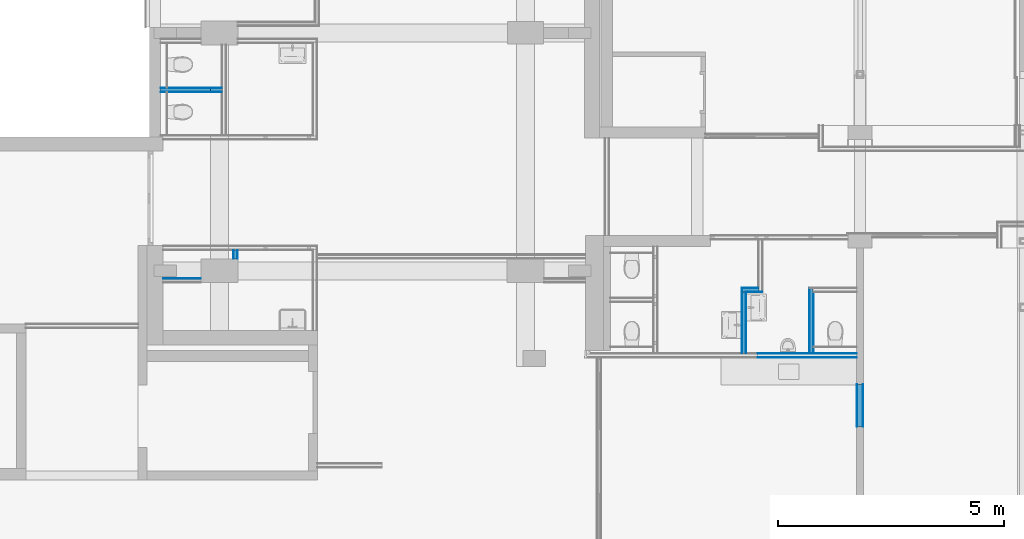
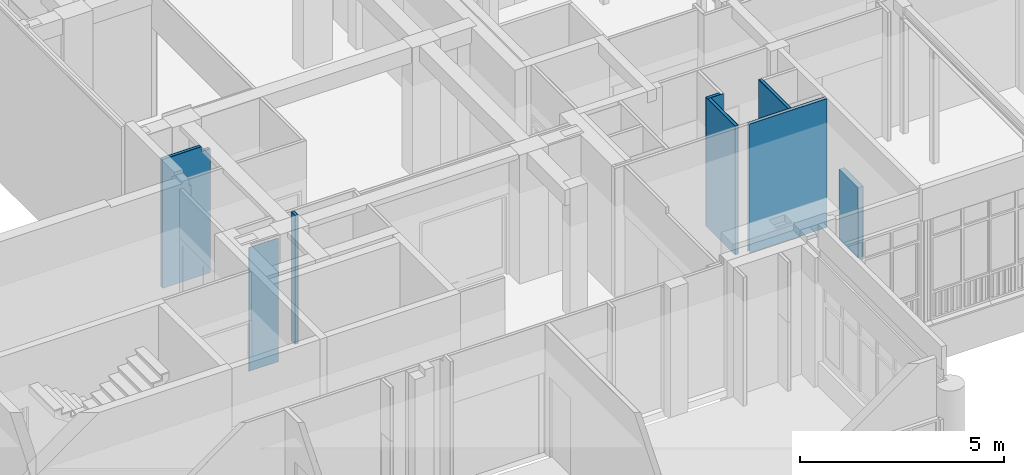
# One storey, part 105 of 135: 21 building element parts, 8 elements without a shape of their own.
"""IFC2X3 building model written with IfcOpenShell, lengths in millimetres."""

from ifc_helpers import new_model, entity, si_unit, converted_unit, derived_unit, money_unit, direction, frame, origin_with_axes, place, context, subcontext, project, spatial, faceted_brep, material, type_object, element, aggregate, save


model = new_model("IFC2X3")

# Units and contexts
model_context = context("Model", 3, precision=0.01, world=origin_with_axes(), true_north=direction((0.0, 1.0)))
body_context = subcontext(model_context, "Body", "Model", "MODEL_VIEW")
ifc_project = project(units=[si_unit("LENGTHUNIT", "METRE", prefix="MILLI"), si_unit("AREAUNIT", "SQUARE_METRE"), si_unit("VOLUMEUNIT", "CUBIC_METRE"), converted_unit("PLANEANGLEUNIT", "DEGREE", entity("IfcPlaneAngleMeasure", 0.0174532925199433), si_unit("PLANEANGLEUNIT", "RADIAN"), dimensions=[0, 0, 0, 0, 0, 0, 0]), money_unit("EUR"), converted_unit("TIMEUNIT", "Year", entity("IfcTimeMeasure", 31557600.0), si_unit("TIMEUNIT", "SECOND"), dimensions=[0, 0, 1, 0, 0, 0, 0]), si_unit("MASSUNIT", "GRAM", prefix="KILO"), si_unit("THERMODYNAMICTEMPERATUREUNIT", "DEGREE_CELSIUS"), si_unit("LUMINOUSINTENSITYUNIT", "LUMEN"), si_unit("ENERGYUNIT", "JOULE", prefix="MEGA"), derived_unit("THERMALCONDUCTANCEUNIT", [(si_unit("POWERUNIT", "WATT"), 1), (si_unit("LENGTHUNIT", "METRE"), -1), (si_unit("THERMODYNAMICTEMPERATUREUNIT", "KELVIN"), -1)]), derived_unit("SPECIFICHEATCAPACITYUNIT", [(si_unit("ENERGYUNIT", "JOULE"), 1), (si_unit("MASSUNIT", "GRAM", prefix="KILO"), -1), (si_unit("THERMODYNAMICTEMPERATUREUNIT", "KELVIN"), -1)]), derived_unit("MASSDENSITYUNIT", [(si_unit("MASSUNIT", "GRAM", prefix="KILO"), 1), (si_unit("VOLUMEUNIT", "CUBIC_METRE"), -1)])], contexts=[model_context])

# Site, building, storey
site_placement = place(None, origin_with_axes())
site = spatial("IfcSite", under=ifc_project, at=site_placement, Name="Site", CompositionType="ELEMENT")
building_placement = place(site_placement, origin_with_axes())
building = spatial("IfcBuilding", under=site, at=building_placement, Name="Naam gebouw", CompositionType="ELEMENT")
storey_placement = place(building_placement, origin_with_axes())
storey = spatial("IfcBuildingStorey", under=building, at=storey_placement, Name="Begane grond N", CompositionType="ELEMENT", Elevation=0.0)

# Wall, building element parts
wall_type_1 = type_object("IfcWallType", Name="Metalstud iso 100 100", PredefinedType="NOTDEFINED")
wall_1_placement = place(storey_placement, frame((20535.99999999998, 21363.41242510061, 0.0), z_axis=(0.0, 0.0, 1.0), x_axis=(1.0, 0.0, 0.0)))
wall_1 = element("IfcWall", 1, at=wall_1_placement, inside=storey, type_object=wall_type_1, Name="_Wand-x")
ifc_material_1 = material(Name="Isolatie - Steenwol LSW")
building_element_part_1_placement = place(wall_1_placement, origin_with_axes())
building_element_part_1 = element("IfcBuildingElementPart", 2, at=building_element_part_1_placement, material=ifc_material_1, Name="Isolatie - Steenwol LSW", context=body_context, shape_type="Brep", body=[
    faceted_brep([(1100.000000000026, 37.50000000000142, 3850.0), (1100.000000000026, 37.50000000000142, 3699.999999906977), (1350.000000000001, 37.50000000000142, 3699.999999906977), (1350.000000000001, 37.50000000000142, 0.0), (0.0, 37.50000000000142, 0.0), (0.0, 37.50000000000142, 3850.0), (1100.000000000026, -37.49999999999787, 3850.0), (1100.000000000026, -37.49999999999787, 3699.999999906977), (1350.000000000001, -37.49999999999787, 3699.999999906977), (1350.000000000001, -37.50000000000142, 0.0), (0.0, -37.50000000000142, 0.0), (0.0, -37.50000000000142, 3850.0)], [[[0, 1, 2, 3, 4, 5]], [[1, 0, 6, 7]], [[8, 2, 1, 7]], [[2, 8, 9, 3]], [[4, 3, 9, 10]], [[10, 11, 5, 4]], [[6, 0, 5, 11]], [[7, 6, 11, 10, 9, 8]]]),
])
ifc_material_2 = material(Name="Gipsplaat")
building_element_part_2_placement = place(wall_1_placement, origin_with_axes())
building_element_part_2 = element("IfcBuildingElementPart", 3, at=building_element_part_2_placement, material=ifc_material_2, Name="Gipsplaat", context=body_context, shape_type="Brep", body=[
    faceted_brep([(1100.000000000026, 50.00000000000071, 3850.0), (1100.000000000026, 50.00000000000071, 3699.999999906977), (1350.000000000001, 50.00000000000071, 3699.999999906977), (1350.000000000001, 50.00000000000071, 0.0), (0.0, 50.00000000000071, 0.0), (0.0, 50.00000000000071, 3850.0), (1100.000000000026, 37.50000000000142, 3850.0), (1100.000000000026, 37.50000000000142, 3699.999999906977), (1350.000000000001, 37.50000000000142, 3699.999999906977), (1350.000000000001, 37.50000000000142, 0.0), (0.0, 37.50000000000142, 0.0), (0.0, 37.50000000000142, 3850.0)], [[[0, 1, 2, 3, 4, 5]], [[1, 0, 6, 7]], [[8, 2, 1, 7]], [[2, 8, 9, 3]], [[4, 3, 9, 10]], [[10, 11, 5, 4]], [[6, 0, 5, 11]], [[7, 6, 11, 10, 9, 8]]]),
])
building_element_part_3_placement = place(wall_1_placement, origin_with_axes())
building_element_part_3 = element("IfcBuildingElementPart", 4, at=building_element_part_3_placement, material=ifc_material_2, Name="Gipsplaat", context=body_context, shape_type="Brep", body=[
    faceted_brep([(1100.000000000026, -37.49999999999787, 3850.0), (1100.000000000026, -37.50000000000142, 3699.999999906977), (1350.000000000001, -37.49999999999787, 3699.999999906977), (1350.000000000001, -37.50000000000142, 0.0), (0.0, -37.50000000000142, 0.0), (0.0, -37.50000000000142, 3850.0), (1100.000000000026, -50.00000000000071, 3850.0), (1100.000000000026, -50.00000000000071, 3699.999999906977), (1350.000000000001, -50.00000000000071, 3699.999999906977), (1350.000000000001, -50.00000000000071, 0.0), (0.0, -50.00000000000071, 0.0), (0.0, -50.00000000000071, 3850.0)], [[[0, 1, 2, 3, 4, 5]], [[1, 0, 6, 7]], [[8, 2, 1, 7]], [[2, 8, 9, 3]], [[4, 3, 9, 10]], [[10, 11, 5, 4]], [[6, 0, 5, 11]], [[7, 6, 11, 10, 9, 8]]]),
])
aggregate(wall_1, [building_element_part_1, building_element_part_2, building_element_part_3])

wall_2_placement = place(storey_placement, frame((36000.0, 15440.91242510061, 0.0), z_axis=(0.0, 0.0, 1.0), x_axis=(-1.0, 0.0, 0.0)))
wall_2 = element("IfcWall", 5, at=wall_2_placement, inside=storey, type_object=wall_type_1, Name="_Wand-x")
building_element_part_4_placement = place(wall_2_placement, origin_with_axes())
building_element_part_4 = element("IfcBuildingElementPart", 6, at=building_element_part_4_placement, material=ifc_material_2, Name="Gipsplaat", context=body_context, shape_type="Brep", body=[
    faceted_brep([(2266.812900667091, -99.99999999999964, 3850.0), (75.00000000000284, -99.99999999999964, 3850.0), (75.00000000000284, -99.99999999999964, 0.0), (2266.812900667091, -99.99999999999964, 0.0), (75.00000000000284, -87.50000000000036, 3850.0), (2266.812900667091, -87.50000000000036, 3850.0), (75.00000000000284, -87.50000000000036, 0.0), (2266.812900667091, -87.50000000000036, 0.0)], [[[0, 1, 2, 3]], [[4, 1, 0, 5]], [[1, 4, 6, 2]], [[6, 7, 3, 2]], [[5, 0, 3, 7]], [[4, 5, 7, 6]]]),
])
building_element_part_5_placement = place(wall_2_placement, origin_with_axes())
building_element_part_5 = element("IfcBuildingElementPart", 7, at=building_element_part_5_placement, material=ifc_material_2, Name="Gipsplaat", context=body_context, shape_type="Brep", body=[
    faceted_brep([(2266.812900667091, -12.49999999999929, 3850.0), (75.00000000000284, -12.49999999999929, 3850.0), (75.00000000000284, -12.49999999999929, 0.0), (2266.812900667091, -12.49999999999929, 0.0), (75.00000000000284, 0.0, 3850.0), (2266.812900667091, 0.0, 3850.0), (75.00000000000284, 0.0, 0.0), (2266.812900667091, 0.0, 0.0)], [[[0, 1, 2, 3]], [[4, 1, 0, 5]], [[1, 4, 6, 2]], [[6, 7, 3, 2]], [[5, 0, 3, 7]], [[4, 5, 7, 6]]]),
])
aggregate(wall_2, [building_element_part_4, building_element_part_5])

# Wall, building element part
wall_3_placement = place(storey_placement, frame((20590.99999999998, 17203.41242510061, 0.0), z_axis=(0.0, 0.0, 1.0), x_axis=(1.0, 0.0, 0.0)))
wall_3 = element("IfcWall", 8, at=wall_3_placement, inside=storey, type_object=wall_type_1, Name="_Wand-x")
building_element_part_6_placement = place(wall_3_placement, origin_with_axes())
building_element_part_6 = element("IfcBuildingElementPart", 9, at=building_element_part_6_placement, material=ifc_material_2, Name="Gipsplaat", context=body_context, shape_type="Brep", body=[
    faceted_brep([(0.0, 0.0, 0.0), (0.0, 0.0, 3699.999999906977), (835.0000000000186, 0.0, 3699.999999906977), (835.0000000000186, 0.0, 0.0), (0.0, -12.49999999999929, 0.0), (0.0, -12.49999999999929, 3699.999999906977), (835.0000000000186, -12.49999999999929, 3699.999999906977), (835.0000000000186, -12.49999999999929, 0.0)], [[[0, 1, 2, 3]], [[4, 5, 1, 0]], [[5, 6, 2, 1]], [[3, 2, 6, 7]], [[7, 4, 0, 3]], [[7, 6, 5, 4]]]),
])
aggregate(wall_3, [building_element_part_6])

# Wall, building element parts
wall_4_placement = place(storey_placement, frame((22246.0, 17824.75122651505, 0.0), z_axis=(0.0, 0.0, 1.0), x_axis=(0.0, -1.0, 0.0)))
wall_4 = element("IfcWall", 10, at=wall_4_placement, inside=storey, type_object=wall_type_1, Name="_Wand-x")
building_element_part_7_placement = place(wall_4_placement, origin_with_axes())
building_element_part_7 = element("IfcBuildingElementPart", 11, at=building_element_part_7_placement, material=ifc_material_2, Name="Gipsplaat", context=body_context, shape_type="Brep", body=[
    faceted_brep([(0.0, -12.49999999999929, 0.0), (0.0, -12.49999999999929, 3850.0), (0.0, 0.0, 3850.0), (0.0, 0.0, 0.0), (196.3388014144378, -12.49999999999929, 0.0), (196.3388014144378, -12.49999999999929, 3850.0), (196.3388014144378, 0.0, 3850.0), (196.3388014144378, 0.0, 0.0)], [[[0, 1, 2, 3]], [[4, 5, 1, 0]], [[5, 6, 2, 1]], [[3, 2, 6, 7]], [[0, 3, 7, 4]], [[7, 6, 5, 4]]]),
])
building_element_part_8_placement = place(wall_4_placement, origin_with_axes())
building_element_part_8 = element("IfcBuildingElementPart", 12, at=building_element_part_8_placement, material=ifc_material_1, Name="Isolatie - Steenwol LSW", context=body_context, shape_type="Brep", body=[
    faceted_brep([(0.0, -87.49999999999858, 0.0), (0.0, -87.49999999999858, 3850.0), (0.0, -12.49999999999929, 3850.0), (0.0, -12.49999999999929, 0.0), (196.3388014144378, -87.49999999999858, 0.0), (196.3388014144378, -87.49999999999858, 3850.0), (196.3388014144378, -12.49999999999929, 3850.0), (196.3388014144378, -12.49999999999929, 0.0)], [[[0, 1, 2, 3]], [[4, 5, 1, 0]], [[5, 6, 2, 1]], [[3, 2, 6, 7]], [[0, 3, 7, 4]], [[7, 6, 5, 4]]]),
])
building_element_part_9_placement = place(wall_4_placement, origin_with_axes())
building_element_part_9 = element("IfcBuildingElementPart", 13, at=building_element_part_9_placement, material=ifc_material_2, Name="Gipsplaat", context=body_context, shape_type="Brep", body=[
    faceted_brep([(0.0, -100.0000000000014, 0.0), (0.0, -100.0000000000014, 3850.0), (0.0, -87.49999999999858, 3850.0), (0.0, -87.49999999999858, 0.0), (196.3388014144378, -100.0000000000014, 0.0), (196.3388014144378, -100.0000000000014, 3850.0), (196.3388014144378, -87.49999999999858, 3850.0), (196.3388014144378, -87.49999999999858, 0.0)], [[[0, 1, 2, 3]], [[4, 5, 1, 0]], [[5, 6, 2, 1]], [[3, 2, 6, 7]], [[0, 3, 7, 4]], [[7, 6, 5, 4]]]),
])
aggregate(wall_4, [building_element_part_7, building_element_part_8, building_element_part_9])

wall_5_placement = place(storey_placement, frame((33383.11817762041, 16990.91242510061, 0.0), z_axis=(0.0, 0.0, 1.0), x_axis=(0.0, -1.0, 0.0)))
wall_5 = element("IfcWall", 14, at=wall_5_placement, inside=storey, type_object=wall_type_1, Name="_Wand-x")
building_element_part_10_placement = place(wall_5_placement, origin_with_axes())
building_element_part_10 = element("IfcBuildingElementPart", 15, at=building_element_part_10_placement, material=ifc_material_1, Name="Isolatie - Steenwol LSW", context=body_context, shape_type="Brep", body=[
    faceted_brep([(87.49999999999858, 12.50000000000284, 3850.0), (87.49999999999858, 87.49999999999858, 3850.0), (87.49999999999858, 87.49999999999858, 0.0), (87.49999999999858, 12.50000000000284, 0.0), (1450.000000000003, 87.49999999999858, 3850.0), (1450.000000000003, 12.50000000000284, 3850.0), (1450.000000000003, 87.49999999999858, 0.0), (1450.000000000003, 12.50000000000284, 0.0)], [[[0, 1, 2, 3]], [[4, 1, 0, 5]], [[1, 4, 6, 2]], [[6, 7, 3, 2]], [[5, 0, 3, 7]], [[4, 5, 7, 6]]]),
])
building_element_part_11_placement = place(wall_5_placement, origin_with_axes())
building_element_part_11 = element("IfcBuildingElementPart", 16, at=building_element_part_11_placement, material=ifc_material_2, Name="Gipsplaat", context=body_context, shape_type="Brep", body=[
    faceted_brep([(12.49999999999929, 0.0, 3850.0), (12.49999999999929, 12.50000000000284, 3850.0), (12.49999999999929, 12.50000000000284, 0.0), (12.49999999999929, 0.0, 0.0), (1450.000000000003, 12.50000000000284, 3850.0), (1450.000000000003, 0.0, 3850.0), (1450.000000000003, 12.50000000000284, 0.0), (1450.000000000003, 0.0, 0.0)], [[[0, 1, 2, 3]], [[4, 1, 0, 5]], [[1, 4, 6, 2]], [[6, 7, 3, 2]], [[5, 0, 3, 7]], [[4, 5, 7, 6]]]),
])
building_element_part_12_placement = place(wall_5_placement, origin_with_axes())
building_element_part_12 = element("IfcBuildingElementPart", 17, at=building_element_part_12_placement, material=ifc_material_2, Name="Gipsplaat", context=body_context, shape_type="Brep", body=[
    faceted_brep([(100.0000000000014, 87.49999999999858, 3850.0), (100.0000000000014, 100.0000000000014, 3850.0), (100.0000000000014, 100.0000000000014, 0.0), (100.0000000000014, 87.49999999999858, 0.0), (1450.000000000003, 100.0000000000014, 3850.0), (1450.000000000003, 87.49999999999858, 3850.0), (1450.000000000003, 100.0000000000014, 0.0), (1450.000000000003, 87.49999999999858, 0.0)], [[[0, 1, 2, 3]], [[4, 1, 0, 5]], [[1, 4, 6, 2]], [[6, 7, 3, 2]], [[5, 0, 3, 7]], [[4, 5, 7, 6]]]),
])
aggregate(wall_5, [building_element_part_10, building_element_part_11, building_element_part_12])

wall_6_placement = place(storey_placement, frame((33749.1870993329, 16990.91242510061, 0.0), z_axis=(0.0, 0.0, 1.0), x_axis=(-1.0, 0.0, 0.0)))
wall_6 = element("IfcWall", 18, at=wall_6_placement, inside=storey, type_object=wall_type_1, Name="_Wand-x")
building_element_part_13_placement = place(wall_6_placement, origin_with_axes())
building_element_part_13 = element("IfcBuildingElementPart", 19, at=building_element_part_13_placement, material=ifc_material_2, Name="Gipsplaat", context=body_context, shape_type="Brep", body=[
    faceted_brep([(278.5689217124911, 87.49999999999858, 3850.0), (-87.49999999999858, 87.49999999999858, 3850.0), (-87.49999999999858, 87.49999999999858, 0.0), (278.5689217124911, 87.49999999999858, 0.0), (-87.49999999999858, 100.0000000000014, 3850.0), (278.5689217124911, 100.0000000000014, 3850.0), (-87.49999999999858, 100.0000000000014, 0.0), (278.5689217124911, 100.0000000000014, 0.0)], [[[0, 1, 2, 3]], [[4, 1, 0, 5]], [[1, 4, 6, 2]], [[7, 3, 2, 6]], [[5, 0, 3, 7]], [[4, 5, 7, 6]]]),
])
building_element_part_14_placement = place(wall_6_placement, origin_with_axes())
building_element_part_14 = element("IfcBuildingElementPart", 20, at=building_element_part_14_placement, material=ifc_material_2, Name="Gipsplaat", context=body_context, shape_type="Brep", body=[
    faceted_brep([(366.0689217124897, 0.0, 3850.0), (0.0, 0.0, 3850.0), (0.0, 0.0, 0.0), (366.0689217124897, 0.0, 0.0), (0.0, 12.49999999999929, 3850.0), (366.0689217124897, 12.49999999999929, 3850.0), (0.0, 12.49999999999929, 0.0), (366.0689217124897, 12.49999999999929, 0.0)], [[[0, 1, 2, 3]], [[4, 1, 0, 5]], [[1, 4, 6, 2]], [[7, 3, 2, 6]], [[5, 0, 3, 7]], [[4, 5, 7, 6]]]),
])
building_element_part_15_placement = place(wall_6_placement, origin_with_axes())
building_element_part_15 = element("IfcBuildingElementPart", 21, at=building_element_part_15_placement, material=ifc_material_1, Name="Isolatie - Steenwol LSW", context=body_context, shape_type="Brep", body=[
    faceted_brep([(353.5689217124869, 12.49999999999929, 3850.0), (-12.50000000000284, 12.49999999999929, 3850.0), (-12.50000000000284, 12.49999999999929, 0.0), (353.5689217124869, 12.49999999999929, 0.0), (-12.50000000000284, 87.49999999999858, 3850.0), (353.5689217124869, 87.49999999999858, 3850.0), (-12.50000000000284, 87.49999999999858, 0.0), (353.5689217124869, 87.49999999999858, 0.0)], [[[0, 1, 2, 3]], [[4, 1, 0, 5]], [[1, 4, 6, 2]], [[7, 3, 2, 6]], [[5, 0, 3, 7]], [[4, 5, 7, 6]]]),
])
aggregate(wall_6, [building_element_part_13, building_element_part_14, building_element_part_15])

wall_7_placement = place(storey_placement, frame((34925.00000000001, 15540.91242510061, 0.0), z_axis=(0.0, 0.0, 1.0), x_axis=(0.0, 1.0, 0.0)))
wall_7 = element("IfcWall", 22, at=wall_7_placement, inside=storey, type_object=wall_type_1, Name="_Wand-x")
building_element_part_16_placement = place(wall_7_placement, origin_with_axes())
building_element_part_16 = element("IfcBuildingElementPart", 23, at=building_element_part_16_placement, material=ifc_material_2, Name="Gipsplaat", context=body_context, shape_type="Brep", body=[
    faceted_brep([(1450.000000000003, 49.99999999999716, 3850.0), (1450.000000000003, 37.50000000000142, 3850.0), (1450.000000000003, 37.50000000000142, 0.0), (1450.000000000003, 49.99999999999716, 0.0), (0.0, 37.50000000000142, 3850.0), (0.0, 49.99999999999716, 3850.0), (0.0, 37.50000000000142, 0.0), (0.0, 49.99999999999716, 0.0)], [[[0, 1, 2, 3]], [[4, 1, 0, 5]], [[1, 4, 6, 2]], [[3, 2, 6, 7]], [[5, 0, 3, 7]], [[4, 5, 7, 6]]]),
])
building_element_part_17_placement = place(wall_7_placement, origin_with_axes())
building_element_part_17 = element("IfcBuildingElementPart", 24, at=building_element_part_17_placement, material=ifc_material_1, Name="Isolatie - Steenwol LSW", context=body_context, shape_type="Brep", body=[
    faceted_brep([(1437.5, 37.50000000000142, 3850.0), (1437.5, -37.50000000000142, 3850.0), (1437.5, -37.50000000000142, 0.0), (1437.5, 37.50000000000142, 0.0), (0.0, -37.50000000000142, 3850.0), (0.0, 37.50000000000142, 3850.0), (0.0, -37.50000000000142, 0.0), (0.0, 37.50000000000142, 0.0)], [[[0, 1, 2, 3]], [[4, 1, 0, 5]], [[1, 4, 6, 2]], [[3, 2, 6, 7]], [[5, 0, 3, 7]], [[4, 5, 7, 6]]]),
])
building_element_part_18_placement = place(wall_7_placement, origin_with_axes())
building_element_part_18 = element("IfcBuildingElementPart", 25, at=building_element_part_18_placement, material=ifc_material_2, Name="Gipsplaat", context=body_context, shape_type="Brep", body=[
    faceted_brep([(1362.500000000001, -37.50000000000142, 3850.0), (1362.500000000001, -49.99999999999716, 3850.0), (1362.500000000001, -49.99999999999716, 0.0), (1362.500000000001, -37.50000000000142, 0.0), (0.0, -49.99999999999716, 3850.0), (0.0, -37.50000000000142, 3850.0), (0.0, -49.99999999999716, 0.0), (0.0, -37.50000000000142, 0.0)], [[[0, 1, 2, 3]], [[4, 1, 0, 5]], [[1, 4, 6, 2]], [[3, 2, 6, 7]], [[5, 0, 3, 7]], [[4, 5, 7, 6]]]),
])
aggregate(wall_7, [building_element_part_16, building_element_part_17, building_element_part_18])

wall_type_2 = type_object("IfcWallType", Name="Metalstud iso 150 150", PredefinedType="NOTDEFINED")
wall_8_placement = place(storey_placement, frame((36000.0, 14853.55978115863, 0.0), z_axis=(0.0, 0.0, 1.0), x_axis=(0.0, -1.0, 0.0)))
wall_8 = element("IfcWall", 26, at=wall_8_placement, inside=storey, type_object=wall_type_2, Name="_Wand-x")
building_element_part_19_placement = place(wall_8_placement, origin_with_axes())
building_element_part_19 = element("IfcBuildingElementPart", 27, at=building_element_part_19_placement, material=ifc_material_1, Name="Isolatie - Steenwol LSW", context=body_context, shape_type="Brep", body=[
    faceted_brep([(929.9999999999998, -62.5, 2100.0), (929.9999999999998, 62.5, 2100.0), (0.0, 62.5, 2100.0), (0.0, -62.5, 2100.0), (929.9999999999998, -62.5, 0.0), (929.9999999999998, 62.5, 0.0), (0.0, 62.5, 0.0), (0.0, -62.5, 0.0)], [[[0, 1, 2, 3]], [[0, 4, 5, 1]], [[1, 5, 6, 2]], [[3, 2, 6, 7]], [[4, 0, 3, 7]], [[5, 4, 7, 6]]]),
])
building_element_part_20_placement = place(wall_8_placement, origin_with_axes())
building_element_part_20 = element("IfcBuildingElementPart", 28, at=building_element_part_20_placement, material=ifc_material_2, Name="Gipsplaat", context=body_context, shape_type="Brep", body=[
    faceted_brep([(929.9999999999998, 62.5, 2100.0), (929.9999999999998, 75.00000000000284, 2100.0), (0.0, 75.00000000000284, 2100.0), (0.0, 62.5, 2100.0), (929.9999999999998, 62.5, 0.0), (929.9999999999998, 75.00000000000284, 0.0), (0.0, 75.00000000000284, 0.0), (0.0, 62.5, 0.0)], [[[0, 1, 2, 3]], [[0, 4, 5, 1]], [[1, 5, 6, 2]], [[3, 2, 6, 7]], [[4, 0, 3, 7]], [[5, 4, 7, 6]]]),
])
building_element_part_21_placement = place(wall_8_placement, origin_with_axes())
building_element_part_21 = element("IfcBuildingElementPart", 29, at=building_element_part_21_placement, material=ifc_material_2, Name="Gipsplaat", context=body_context, shape_type="Brep", body=[
    faceted_brep([(929.9999999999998, -75.00000000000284, 2100.0), (929.9999999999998, -62.5, 2100.0), (0.0, -62.5, 2100.0), (0.0, -75.00000000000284, 2100.0), (929.9999999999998, -75.00000000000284, 0.0), (929.9999999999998, -62.5, 0.0), (0.0, -62.5, 0.0), (0.0, -75.00000000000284, 0.0)], [[[0, 1, 2, 3]], [[0, 4, 5, 1]], [[1, 5, 6, 2]], [[3, 2, 6, 7]], [[4, 0, 3, 7]], [[5, 4, 7, 6]]]),
])
aggregate(wall_8, [building_element_part_19, building_element_part_20, building_element_part_21])

save(model, "model.ifc")
